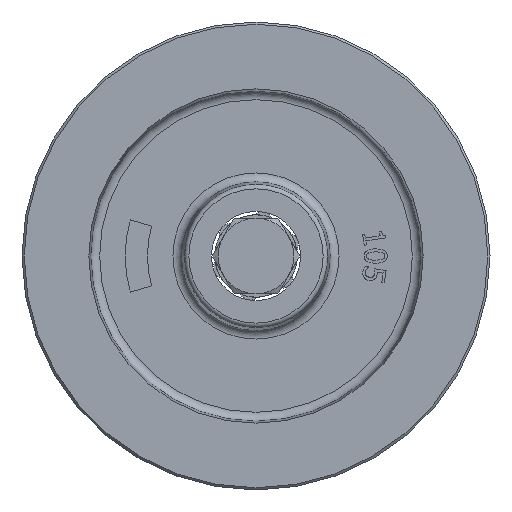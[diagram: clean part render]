
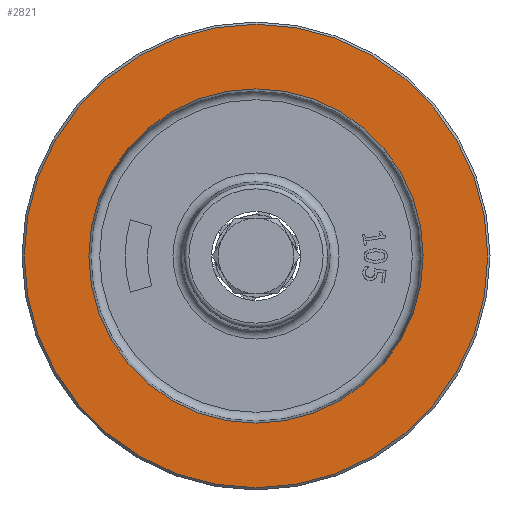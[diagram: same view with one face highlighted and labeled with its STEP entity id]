
A CAD part, left-side view. The second image highlights one B-rep face of the part: STEP entity #2821.
In plain terms, the highlighted planar face has unit normal (-1, 0, 0) as drawn and (1, 0, 0) by its records, which use the part's own axes.
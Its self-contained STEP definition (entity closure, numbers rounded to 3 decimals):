
#205=CIRCLE('',#3133,37.5);
#223=CIRCLE('',#3162,52.);
#355=FACE_BOUND('',#710,.T.);
#527=FACE_OUTER_BOUND('',#709,.T.);
#709=EDGE_LOOP('',(#2213));
#710=EDGE_LOOP('',(#2214));
#1298=VERTEX_POINT('',#4880);
#1312=VERTEX_POINT('',#4927);
#1612=EDGE_CURVE('',#1298,#1298,#205,.T.);
#1633=EDGE_CURVE('',#1312,#1312,#223,.T.);
#2213=ORIENTED_EDGE('',*,*,#1633,.F.);
#2214=ORIENTED_EDGE('',*,*,#1612,.T.);
#2711=PLANE('',#3161);
#2821=ADVANCED_FACE('',(#527,#355),#2711,.T.);
#3133=AXIS2_PLACEMENT_3D('',#4882,#3589,#3590);
#3161=AXIS2_PLACEMENT_3D('',#4926,#3648,#3649);
#3162=AXIS2_PLACEMENT_3D('',#4928,#3650,#3651);
#3589=DIRECTION('center_axis',(-1.,0.,0.));
#3590=DIRECTION('ref_axis',(0.,-1.,0.));
#3648=DIRECTION('center_axis',(1.,0.,0.));
#3649=DIRECTION('ref_axis',(0.,0.,-1.));
#3650=DIRECTION('center_axis',(-1.,0.,0.));
#3651=DIRECTION('ref_axis',(0.,-1.,0.));
#4880=CARTESIAN_POINT('',(10.5,37.5,0.));
#4882=CARTESIAN_POINT('Origin',(10.5,0.,0.));
#4926=CARTESIAN_POINT('Origin',(10.5,-44.75,0.));
#4927=CARTESIAN_POINT('',(10.5,52.,0.));
#4928=CARTESIAN_POINT('Origin',(10.5,0.,0.));
